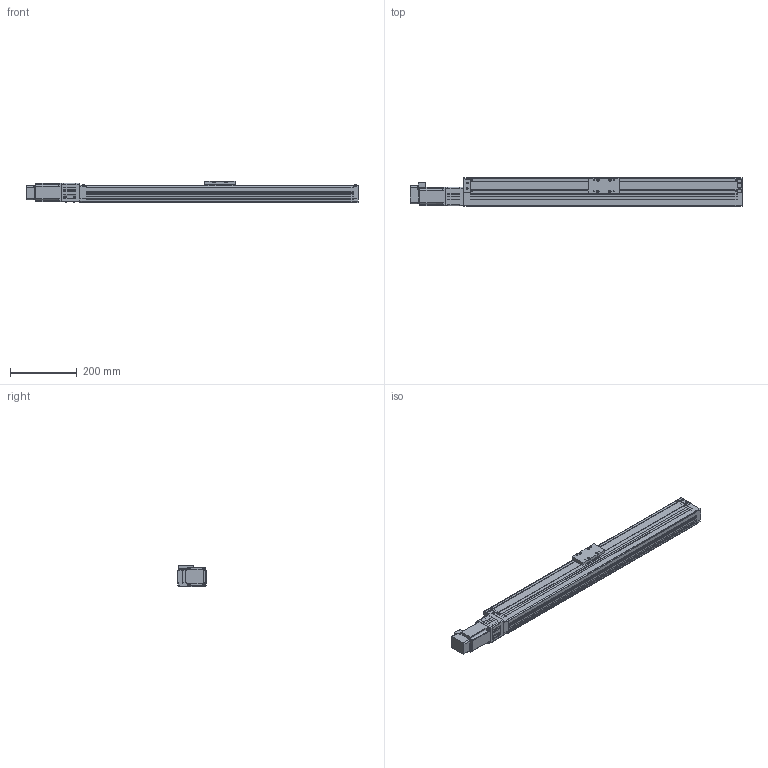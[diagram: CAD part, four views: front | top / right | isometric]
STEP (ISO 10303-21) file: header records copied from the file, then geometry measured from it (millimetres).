
FILE_DESCRIPTION((''),'2;1');
FILE_NAME('D:\製品 (図面)\カタログ用3D\SU部品\SU85×65\ダウンロード用\SU85×65-CM30\SU85×65-700-CM30.stp','2011-07-02T13:39:27',('Tsuchiya'),(''),'Autodesk Inventor 10','Autodesk Inventor 10','');
FILE_SCHEMA(('AUTOMOTIVE_DESIGN { 1 0 10303 214 1 1 1 1 }'));
Length unit declared in the file: millimetre
Products named in the file (4): SU85×65-700-CM30; SU85×65-700-CM301; SU85×65-700-CM302; SU85×65-700-CM303
Assembly tree (3 placements, depth 2):
  SU85×65-700-CM30
    SU85×65-700-CM301
    SU85×65-700-CM302
    SU85×65-700-CM303
Bounding box: 996.5 x 85 x 65 mm (x, y, z)
Volume: 1869423 mm3; surface area: 589909.5 mm2
Topology: 9 solids, 9 shells, 974 faces, 2570 edges, 1662 vertices
Faces by surface type: plane 798, cylinder 136, cone 24, torus 12, bspline 4
Full cylindrical faces by diameter (mm): 3.242 x8, 4 x4, 4.134 x16, 4.5 x4, 5.5 x4, 6 x1, 6.35 x1, 7 x8, 8 x1, 11.5 x1, 12 x1, 13 x1, 38.1 x2, 43 x1
Entity records: 29719 total; most frequent: CARTESIAN_POINT 5918, ORIENTED_EDGE 4886, DIRECTION 4688, EDGE_CURVE 2443, VECTOR 1924, LINE 1924, VERTEX_POINT 1628, AXIS2_PLACEMENT_3D 1382
